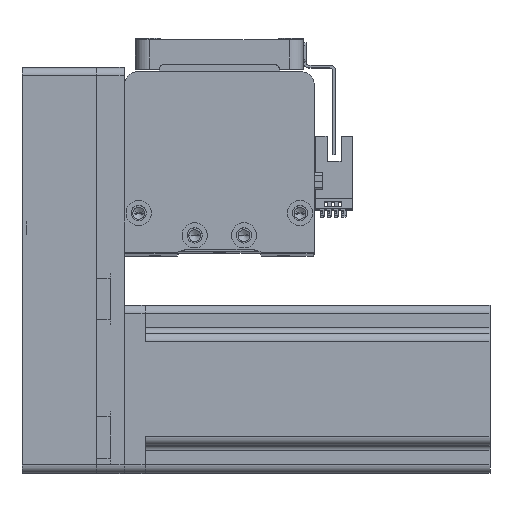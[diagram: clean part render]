
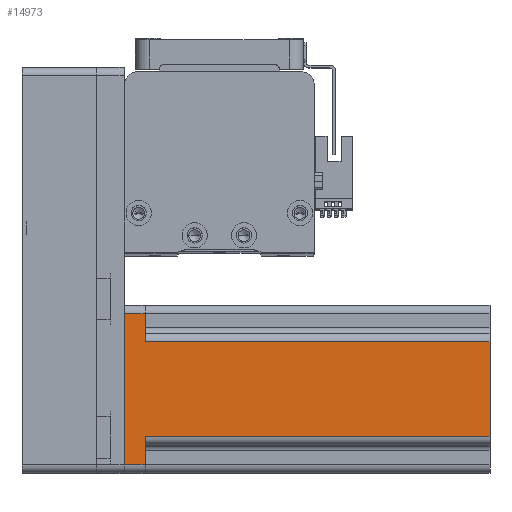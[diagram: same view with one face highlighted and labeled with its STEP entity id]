
A CAD part, top view. The second image highlights one B-rep face of the part: STEP entity #14973.
In plain terms, the highlighted planar face has unit normal (0, 0, 1) as drawn and (0, -1, 0) by its records, which use the part's own axes.
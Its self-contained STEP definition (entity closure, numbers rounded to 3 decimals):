
#1221 = LINE ( 'NONE', #30266, #9157 ) ;
#1612 = EDGE_CURVE ( 'NONE', #5873, #39320, #20091, .T. ) ;
#1883 = VERTEX_POINT ( 'NONE', #15867 ) ;
#1894 = VECTOR ( 'NONE', #12443, 1000. ) ;
#1971 = VERTEX_POINT ( 'NONE', #13179 ) ;
#2828 = EDGE_CURVE ( 'NONE', #1883, #41244, #6170, .T. ) ;
#3138 = VECTOR ( 'NONE', #23217, 1000. ) ;
#5873 = VERTEX_POINT ( 'NONE', #27063 ) ;
#6170 = LINE ( 'NONE', #9049, #1894 ) ;
#8367 = LINE ( 'NONE', #28218, #43462 ) ;
#9049 = CARTESIAN_POINT ( 'NONE',  ( 30., -30., 130.7 ) ) ;
#9157 = VECTOR ( 'NONE', #10062, 1000. ) ;
#10062 = DIRECTION ( 'NONE',  ( 1., 0., 0. ) ) ;
#10173 = AXIS2_PLACEMENT_3D ( 'NONE', #10220, #34028, #13619 ) ;
#10220 = CARTESIAN_POINT ( 'NONE',  ( 30., -30., 130.7 ) ) ;
#10243 = ORIENTED_EDGE ( 'NONE', *, *, #22808, .F. ) ;
#10611 = VERTEX_POINT ( 'NONE', #24680 ) ;
#11052 = DIRECTION ( 'NONE',  ( 0., 0., 1. ) ) ;
#11790 = ORIENTED_EDGE ( 'NONE', *, *, #12631, .T. ) ;
#12443 = DIRECTION ( 'NONE',  ( 1., 0., 0. ) ) ;
#12631 = EDGE_CURVE ( 'NONE', #1971, #41244, #39985, .T. ) ;
#13049 = EDGE_CURVE ( 'NONE', #10611, #33716, #29842, .T. ) ;
#13179 = CARTESIAN_POINT ( 'NONE',  ( 17., -30., 7.5 ) ) ;
#13396 = DIRECTION ( 'NONE',  ( 1., 0., 0. ) ) ;
#13480 = EDGE_LOOP ( 'NONE', ( #20578, #22437, #10243, #41497, #15853, #26193, #25580, #11790 ) ) ;
#13619 = DIRECTION ( 'NONE',  ( -1., 0., 0. ) ) ;
#14024 = FACE_OUTER_BOUND ( 'NONE', #13480, .T. ) ;
#14252 = DIRECTION ( 'NONE',  ( 0., 0., 1. ) ) ;
#14973 = ADVANCED_FACE ( 'NONE', ( #14024 ), #16897, .F. ) ;
#15853 = ORIENTED_EDGE ( 'NONE', *, *, #37278, .T. ) ;
#15867 = CARTESIAN_POINT ( 'NONE',  ( -17., -30., 130.7 ) ) ;
#16897 = PLANE ( 'NONE',  #10173 ) ;
#18837 = LINE ( 'NONE', #21952, #27902 ) ;
#19512 = LINE ( 'NONE', #30342, #28579 ) ;
#19711 = VECTOR ( 'NONE', #14252, 1000. ) ;
#19786 = CARTESIAN_POINT ( 'NONE',  ( -27., -30., 130.7 ) ) ;
#20091 = LINE ( 'NONE', #19786, #3138 ) ;
#20578 = ORIENTED_EDGE ( 'NONE', *, *, #2828, .F. ) ;
#20857 = VERTEX_POINT ( 'NONE', #23517 ) ;
#21466 = CARTESIAN_POINT ( 'NONE',  ( -27., -30., 0. ) ) ;
#21813 = EDGE_CURVE ( 'NONE', #33716, #1971, #18837, .T. ) ;
#21952 = CARTESIAN_POINT ( 'NONE',  ( 20., -30., 7.5 ) ) ;
#22437 = ORIENTED_EDGE ( 'NONE', *, *, #38311, .T. ) ;
#22808 = EDGE_CURVE ( 'NONE', #5873, #20857, #1221, .T. ) ;
#23217 = DIRECTION ( 'NONE',  ( 0., 0., -1. ) ) ;
#23419 = CARTESIAN_POINT ( 'NONE',  ( 17., -30., 130.7 ) ) ;
#23517 = CARTESIAN_POINT ( 'NONE',  ( -17., -30., 7.5 ) ) ;
#24680 = CARTESIAN_POINT ( 'NONE',  ( 27., -30., 0. ) ) ;
#25580 = ORIENTED_EDGE ( 'NONE', *, *, #21813, .T. ) ;
#26193 = ORIENTED_EDGE ( 'NONE', *, *, #13049, .T. ) ;
#27063 = CARTESIAN_POINT ( 'NONE',  ( -27., -30., 7.5 ) ) ;
#27902 = VECTOR ( 'NONE', #35828, 1000. ) ;
#28218 = CARTESIAN_POINT ( 'NONE',  ( -17., -30., 130.7 ) ) ;
#28579 = VECTOR ( 'NONE', #13396, 1000. ) ;
#29835 = VECTOR ( 'NONE', #11052, 1000. ) ;
#29842 = LINE ( 'NONE', #38113, #19711 ) ;
#30266 = CARTESIAN_POINT ( 'NONE',  ( -20., -30., 7.5 ) ) ;
#30342 = CARTESIAN_POINT ( 'NONE',  ( 30., -30., 0. ) ) ;
#31429 = CARTESIAN_POINT ( 'NONE',  ( 17., -30., 130.7 ) ) ;
#33716 = VERTEX_POINT ( 'NONE', #43580 ) ;
#34028 = DIRECTION ( 'NONE',  ( 0., 1., 0. ) ) ;
#35128 = DIRECTION ( 'NONE',  ( 0., 0., -1. ) ) ;
#35828 = DIRECTION ( 'NONE',  ( -1., 0., 0. ) ) ;
#37278 = EDGE_CURVE ( 'NONE', #39320, #10611, #19512, .T. ) ;
#38113 = CARTESIAN_POINT ( 'NONE',  ( 27., -30., 130.7 ) ) ;
#38311 = EDGE_CURVE ( 'NONE', #1883, #20857, #8367, .T. ) ;
#39320 = VERTEX_POINT ( 'NONE', #21466 ) ;
#39985 = LINE ( 'NONE', #31429, #29835 ) ;
#41244 = VERTEX_POINT ( 'NONE', #23419 ) ;
#41497 = ORIENTED_EDGE ( 'NONE', *, *, #1612, .T. ) ;
#43462 = VECTOR ( 'NONE', #35128, 1000. ) ;
#43580 = CARTESIAN_POINT ( 'NONE',  ( 27., -30., 7.5 ) ) ;
